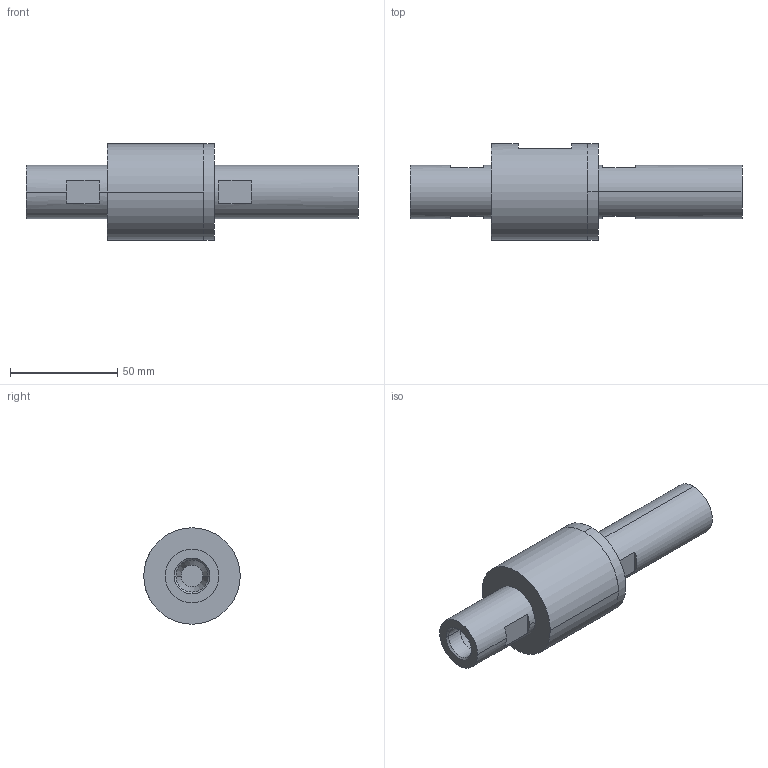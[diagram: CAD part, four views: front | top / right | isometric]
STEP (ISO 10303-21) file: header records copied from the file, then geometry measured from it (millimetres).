
FILE_DESCRIPTION (( 'STEP AP214' ), '1' );
FILE_NAME ('AVP38.STEP', '2025-01-07T19:12:13', ( '' ), ( '' ), 'SwSTEP 2.0', 'SolidWorks 2018', '' );
FILE_SCHEMA (( 'AUTOMOTIVE_DESIGN' ));
Length unit declared in the file: millimetre
Products named in the file (1): AVP38
Bounding box: 155 x 45 x 45 mm (x, y, z)
Volume: 113880.3 mm3; surface area: 25521.3 mm2
Topology: 2 solids, 2 shells, 57 faces, 121 edges, 76 vertices
Faces by surface type: plane 25, cylinder 22, cone 10
Entity records: 1959 total; most frequent: DIRECTION 303, CARTESIAN_POINT 255, ORIENTED_EDGE 242, AXIS2_PLACEMENT_3D 124, EDGE_CURVE 121, VERTEX_POINT 76, EDGE_LOOP 67, CIRCLE 66
